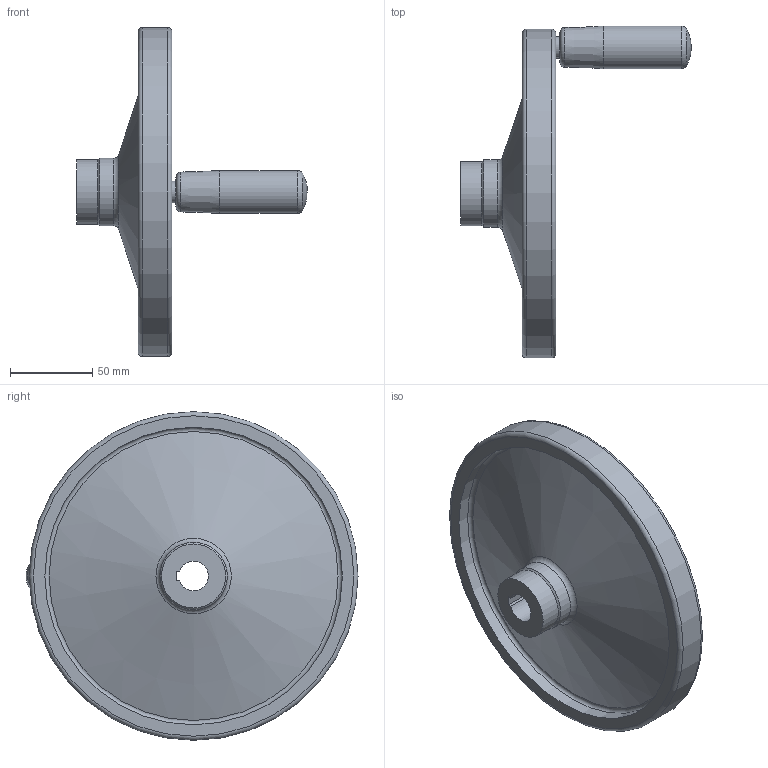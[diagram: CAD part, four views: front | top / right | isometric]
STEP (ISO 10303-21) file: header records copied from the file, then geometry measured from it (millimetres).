
FILE_DESCRIPTION( ( 'STEP AP203' ), '1' );
FILE_NAME( 'C:/Temp/Ganter_Step_05_03_2020/data/1_3/gn_321_5/gn_321_5_d/gn_321_5_d_dr/Safety handwheel GN 321.5-200-K18-D-DR.stp', '2020-03-05T10:42:41', ( 'License CC BY-ND 4.0' ), ( 'CADENAS' ), ' ', 'PARTsolutions', ' ' );
FILE_SCHEMA( ( 'CONFIG_CONTROL_DESIGN' ) );
Length unit declared in the file: millimetre
Products named in the file (1): _Safety handwheel GN 321.5-200-K18-D-DR
Bounding box: 140.5 x 202 x 200 mm (x, y, z)
Volume: 421397.8 mm3; surface area: 98982.4 mm2
Topology: 1 solids, 1 shells, 31 faces, 61 edges, 36 vertices
Faces by surface type: cylinder 9, plane 9, torus 7, cone 5, sphere 1
Full cylindrical faces by diameter (mm): 13 x1, 26 x1, 39 x2, 41 x1, 155 x1, 181 x1, 200 x1
Entity records: 720 total; most frequent: DIRECTION 130, CARTESIAN_POINT 105, ORIENTED_EDGE 76, AXIS2_PLACEMENT_3D 60, EDGE_LOOP 58, FACE_OUTER_BOUND 46, EDGE_CURVE 38, VERTEX_POINT 35
